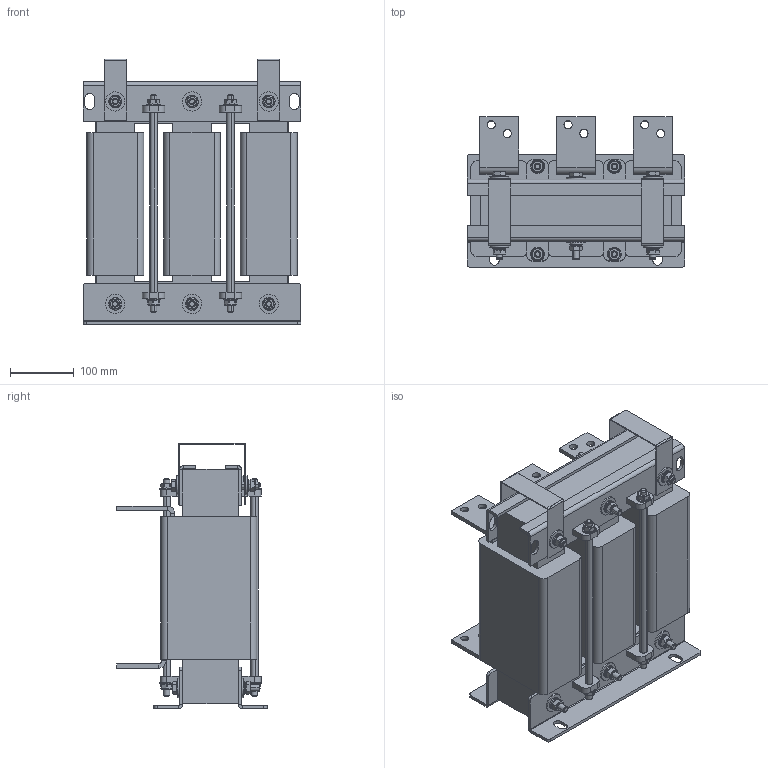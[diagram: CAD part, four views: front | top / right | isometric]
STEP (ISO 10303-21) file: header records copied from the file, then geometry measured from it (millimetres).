
FILE_DESCRIPTION (( 'STEP AP203' ), '1' );
FILE_NAME ('填蝾痦 漯铖皴朦 _ IMF-355_680-4.STEP', '2026-03-20T14:36:46', ( '' ), ( '' ), 'SwSTEP 2.0', 'SolidWorks 2021', '' );
FILE_SCHEMA (( 'CONFIG_CONTROL_DESIGN' ));
Length unit declared in the file: millimetre
Products named in the file (17): Øàéáà ïðóæèííàÿ DIN 127 (A)_Œ10; Áîëò DIN 933_Œ10å130; 填蝾痦 漯铖皴朦 _ IMF-355_680-4; Êëåììà âåðõíÿÿ_355-1225; Ãàéêà ñ ôëàíöåì DIN 6923_Œ10; Ñêîáà òàêåëàæíàÿ_400; Èçîëÿòîð øïèëüêè_400; 咈櫡_355-1225; Êëåììà íèæíÿÿ_355-1225; Øïèëüêà DIN 976_Œ10å340; Øàéáà ïëîñêàÿ DIN 125 (A)_Œ10; Êàòóøêà ñ êëåììàìè_355-1225; Ãàéêà DIN 934_Œ10; 忺覷齆趌355; 栫謱毿膻獥355-1225; Øàéáà ïëîñêàÿ DIN 9021_Œ10; 赶鎀鍧 瀔鳽鳻膼嶱355-630
Assembly tree (71 placements, depth 3):
  填蝾痦 漯铖皴朦 _ IMF-355_680-4
    栫謱毿膻獥355-1225
    咈櫡_355-1225  x2
    Êàòóøêà ñ êëåììàìè_355-1225  x3
      忺覷齆趌355
      Êëåììà íèæíÿÿ_355-1225
      Êëåììà âåðõíÿÿ_355-1225
    赶鎀鍧 瀔鳽鳻膼嶱355-630  x2
    Ñêîáà òàêåëàæíàÿ_400  x2
    Áîëò DIN 933_Œ10å130  x6
    Øàéáà ïëîñêàÿ DIN 125 (A)_Œ10  x12
    Øàéáà ïëîñêàÿ DIN 9021_Œ10  x12
    Øàéáà ïðóæèííàÿ DIN 127 (A)_Œ10  x6
    Ãàéêà DIN 934_Œ10  x6
    Øïèëüêà DIN 976_Œ10å340  x4
    Ãàéêà ñ ôëàíöåì DIN 6923_Œ10  x8
    Èçîëÿòîð øïèëüêè_400  x4
Bounding box: 340 x 235 x 415 mm (x, y, z)
Volume: 13458082.4 mm3; surface area: 1562835.1 mm2
Topology: 74 solids, 74 shells, 1350 faces, 3172 edges, 1996 vertices
Faces by surface type: plane 546, cylinder 408, cone 272, torus 76, bspline 48
Entity records: 13789 total; most frequent: CARTESIAN_POINT 2295, DIRECTION 1808, ORIENTED_EDGE 1608, EDGE_CURVE 804, AXIS2_PLACEMENT_3D 681, VERTEX_POINT 508, VECTOR 446, LINE 446
